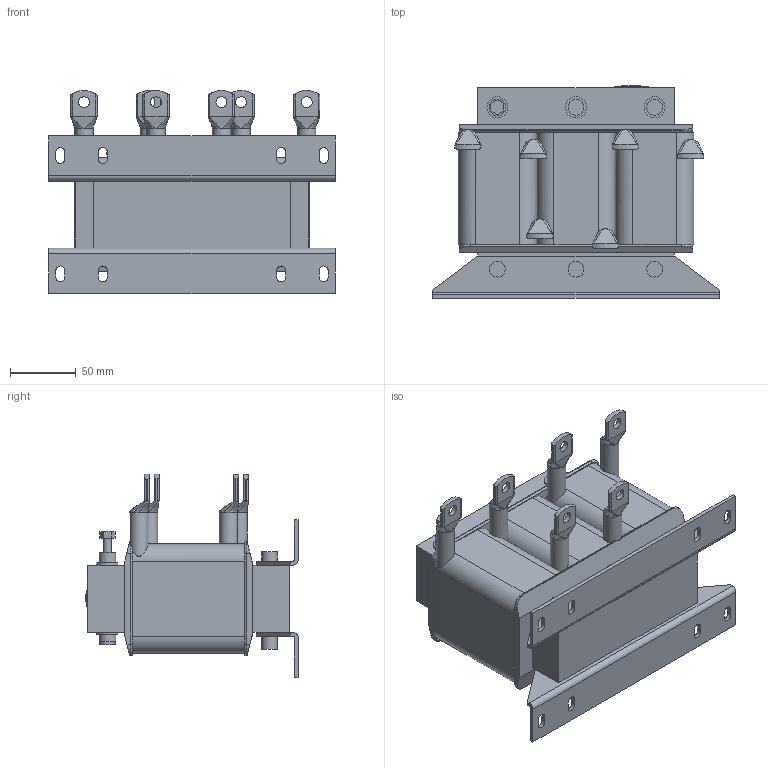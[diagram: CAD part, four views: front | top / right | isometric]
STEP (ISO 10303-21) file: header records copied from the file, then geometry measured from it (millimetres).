
FILE_DESCRIPTION (( 'STEP AP214' ), '1' );
FILE_NAME ('18Z1B03-1000.STEP', '2022-04-13T08:58:23', ( '' ), ( '' ), 'SwSTEP 2.0', 'SolidWorks 2019', '' );
FILE_SCHEMA (( 'AUTOMOTIVE_DESIGN' ));
Length unit declared in the file: millimetre
Products named in the file (1): 18Z1B03-1000
Bounding box: 219 x 162.12 x 154.95 mm (x, y, z)
Volume: 1971292.6 mm3; surface area: 165427.6 mm2
Topology: 1 solids, 1 shells, 361 faces, 931 edges, 599 vertices
Faces by surface type: plane 166, cylinder 126, bspline 61, torus 8
Full cylindrical faces by diameter (mm): 6 x1, 8.4 x6, 12 x10, 12.6 x2, 14 x6, 16 x6
Entity records: 15633 total; most frequent: CARTESIAN_POINT 7295, ORIENTED_EDGE 1776, DIRECTION 1422, EDGE_CURVE 888, VERTEX_POINT 587, AXIS2_PLACEMENT_3D 510, EDGE_LOOP 447, LINE 402
